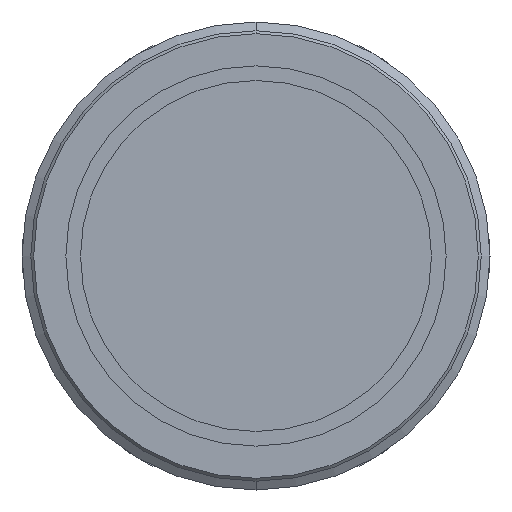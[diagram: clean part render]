
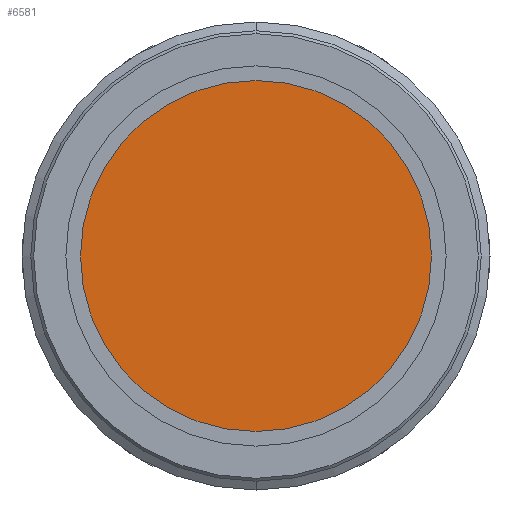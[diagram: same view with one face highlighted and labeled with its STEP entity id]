
A CAD part, front view. The second image highlights one B-rep face of the part: STEP entity #6581.
In plain terms, the highlighted planar face has unit normal (0, -1, 0).
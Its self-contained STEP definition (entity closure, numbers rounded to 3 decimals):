
#455 = CARTESIAN_POINT ( 'NONE',  ( 0., -82.899, 0. ) ) ;
#658 = AXIS2_PLACEMENT_3D ( 'NONE', #10322, #10303, #10286 ) ;
#762 = ORIENTED_EDGE ( 'NONE', *, *, #2644, .T. ) ;
#1465 = DIRECTION ( 'NONE',  ( 0., 0., -1. ) ) ;
#2644 = EDGE_CURVE ( 'NONE', #12472, #9121, #3164, .T. ) ;
#3164 = CIRCLE ( 'NONE', #658, 30. ) ;
#4037 = CARTESIAN_POINT ( 'NONE',  ( -30., -82.899, 0. ) ) ;
#6189 = DIRECTION ( 'NONE',  ( 0., 0., 1. ) ) ;
#6581 = ADVANCED_FACE ( 'NONE', ( #13407 ), #10445, .F. ) ;
#7818 = DIRECTION ( 'NONE',  ( 0., -1., 0. ) ) ;
#8432 = CARTESIAN_POINT ( 'NONE',  ( 0., -82.899, 30. ) ) ;
#9121 = VERTEX_POINT ( 'NONE', #8432 ) ;
#10175 = EDGE_CURVE ( 'NONE', #9121, #12472, #11033, .T. ) ;
#10184 = EDGE_LOOP ( 'NONE', ( #762, #11820 ) ) ;
#10286 = DIRECTION ( 'NONE',  ( 0., 0., -1. ) ) ;
#10303 = DIRECTION ( 'NONE',  ( 0., -1., 0. ) ) ;
#10322 = CARTESIAN_POINT ( 'NONE',  ( 0., -82.899, 0. ) ) ;
#10445 = PLANE ( 'NONE',  #11194 ) ;
#11033 = CIRCLE ( 'NONE', #11216, 30. ) ;
#11194 = AXIS2_PLACEMENT_3D ( 'NONE', #4037, #12664, #6189 ) ;
#11216 = AXIS2_PLACEMENT_3D ( 'NONE', #455, #7818, #1465 ) ;
#11820 = ORIENTED_EDGE ( 'NONE', *, *, #10175, .T. ) ;
#12472 = VERTEX_POINT ( 'NONE', #13145 ) ;
#12664 = DIRECTION ( 'NONE',  ( 0., 1., 0. ) ) ;
#13145 = CARTESIAN_POINT ( 'NONE',  ( 0., -82.899, -30. ) ) ;
#13407 = FACE_OUTER_BOUND ( 'NONE', #10184, .T. ) ;
